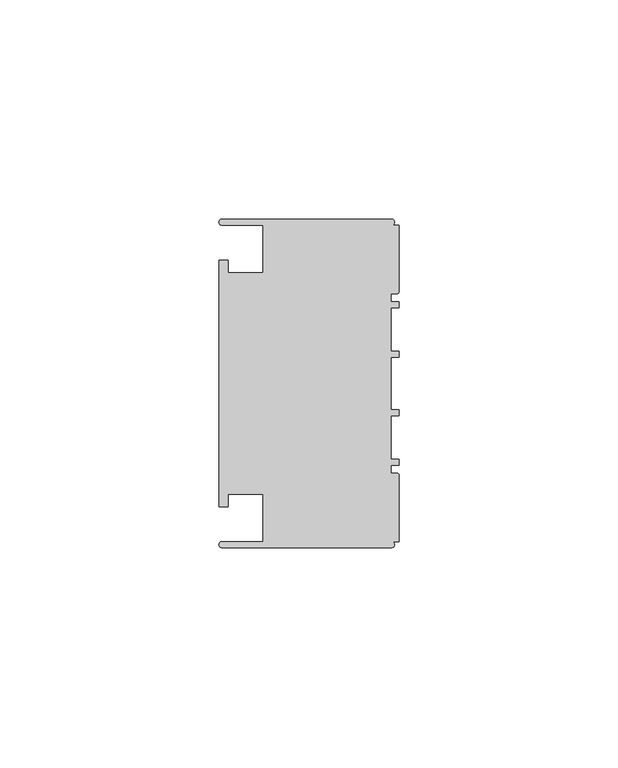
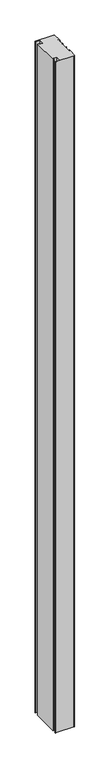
"""IFC4 building model written with IfcOpenShell, lengths in millimetres: member geometry, Прямоугольный импост : 3-AMG-2-Профиль 40Х75 Верх П."""

from ifc_helpers import new_model, si_unit, point, frame, frame_2d, origin, place, context, project, spatial, polyline, circle_curve, trimmed, segment, composite_curve, outline, extrude, source, transform, mapped, element, save


def member_d9408e26(model_context):
    return source(origin(), model_context, "Body", "SweptSolid", [
        extrude(outline(composite_curve([segment(polyline([(-1.7, -37.5), (-40.4, -37.5)]), True, "CONTINUOUS"), segment(trimmed(circle_curve(frame_2d((-40.4, -36.8)), 0.7), [point((-40.4, -37.5))], [point((-40.4, -36.1))], False, "CARTESIAN"), True, "CONTINUOUS"), segment(polyline([(-40.4, -36.1), (-31.0, -36.1), (-31.0, -25.25), (-39.0, -25.25), (-39.0, -28.1), (-41.1, -28.1), (-41.1, 28.1), (-39.0, 28.1), (-39.0, 25.25), (-31.0, 25.25), (-31.0, 36.1), (-40.4, 36.1)]), True, "CONTINUOUS"), segment(trimmed(circle_curve(frame_2d((-40.4, 36.8)), 0.7), [point((-40.4, 36.1))], [point((-40.4, 37.5))], False, "CARTESIAN"), True, "CONTINUOUS"), segment(polyline([(-40.4, 37.5), (-1.7, 37.5)]), True, "CONTINUOUS"), segment(trimmed(circle_curve(frame_2d((-1.7, 36.8)), 0.7), [point((-1.7, 37.5))], [point((-1.7, 36.1))], False, "CARTESIAN"), True, "CONTINUOUS"), segment(polyline([(-1.7, 36.1), (0.0, 36.1), (0.0, 20.95)]), True, "CONTINUOUS"), segment(trimmed(circle_curve(frame_2d((-0.5, 20.95)), 0.5), [point((0.0, 20.95))], [point((-0.5, 20.45))], False, "CARTESIAN"), True, "CONTINUOUS"), segment(polyline([(-0.5, 20.45), (-1.8, 20.45), (-1.8, 18.65), (0.0, 18.65), (0.0, 17.25), (-1.8, 17.25), (-1.8, 7.4), (0.0, 7.4), (0.0, 6.0), (-1.8, 6.0), (-1.8, -6.0), (0.0, -6.0), (0.0, -7.4), (-1.8, -7.4), (-1.8, -17.25), (0.0, -17.25), (0.0, -18.65), (-1.8, -18.65), (-1.8, -20.45), (-0.5, -20.45)]), True, "CONTINUOUS"), segment(trimmed(circle_curve(frame_2d((-0.5, -20.95)), 0.5), [point((-0.5, -20.45))], [point((0.0, -20.95))], False, "CARTESIAN"), True, "CONTINUOUS"), segment(polyline([(0.0, -20.95), (0.0, -36.1), (-1.7, -36.1)]), True, "CONTINUOUS"), segment(trimmed(circle_curve(frame_2d((-1.7, -36.8)), 0.7), [point((-1.7, -36.1))], [point((-1.7, -37.5))], False, "CARTESIAN"), True, "CONTINUOUS")], self_intersect=False)), frame((0.0, 0.0, -1482.2093751), z_axis=(0.0, 0.0, 1.0), x_axis=(1.0, 0.0, 0.0)), (0.0, 0.0, 1.0), 1482.2093751),
    ])


if __name__ == "__main__":
    model = new_model("IFC4")
    model_context = context("Model", 3, world=origin())
    ifc_project = project(units=[si_unit("LENGTHUNIT", "METRE", prefix="MILLI")], contexts=[model_context])
    site = spatial("IfcSite", under=ifc_project)
    building = spatial("IfcBuilding", under=site)
    placement = place(None, origin())
    member_shape = member_d9408e26(model_context)
    element("IfcMember", 1, ObjectType="Прямоугольный импост : 3-AMG-2-Профиль 40Х75 Верх П", at=placement, inside=building, context=model_context, shape_type="MappedRepresentation", body=[
        mapped(member_shape, transform((0.0, 0.0, 0.0), x_axis=(1.0, 0.0, 0.0), y_axis=(0.0, 1.0, 0.0), z_axis=(0.0, 0.0, 1.0))),
    ])
    save(model, "model.ifc")
